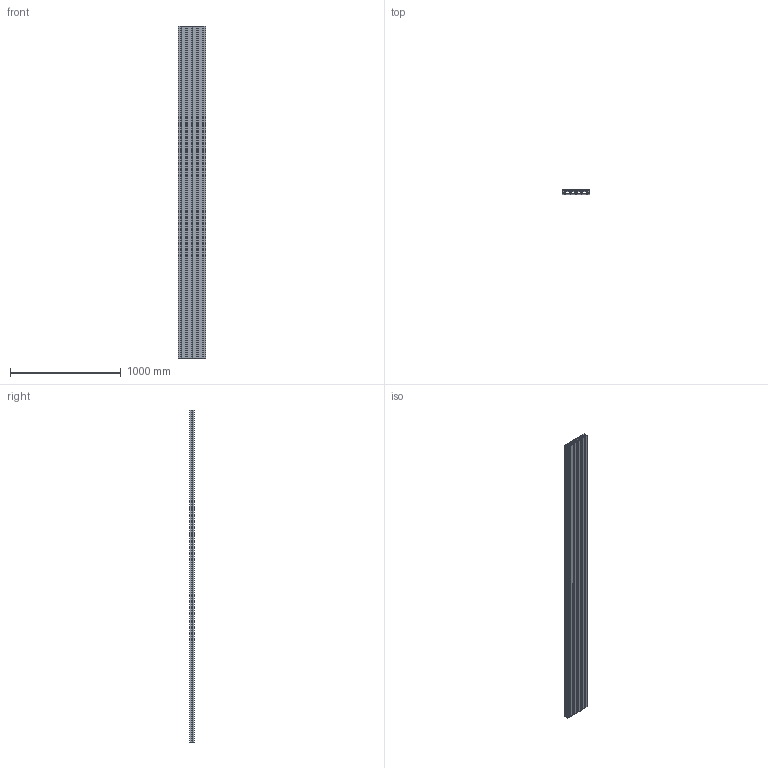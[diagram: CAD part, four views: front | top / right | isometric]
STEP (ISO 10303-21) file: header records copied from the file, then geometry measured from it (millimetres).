
FILE_DESCRIPTION (( 'STEP AP203' ), '1' );
FILE_NAME ('Rechteckprofil RE 40x250 Wechselnut - ArtNr 201030 3000.STEP', '2013-02-07T09:12:40', ( 'test' ), ( 'Microsoft' ), 'SwSTEP 2.0', 'SolidWorks 2012', '' );
FILE_SCHEMA (( 'CONFIG_CONTROL_DESIGN' ));
Length unit declared in the file: millimetre
Products named in the file (1): Rechteckprofil RE 40x250 Wechselnut - ArtNr 201030 3000
Bounding box: 250 x 40 x 3000 mm (x, y, z)
Volume: 8437063.4 mm3; surface area: 6423689.3 mm2
Topology: 1 solids, 1 shells, 394 faces, 1176 edges, 784 vertices
Faces by surface type: plane 244, cylinder 150
Entity records: 13381 total; most frequent: CARTESIAN_POINT 2355, ORIENTED_EDGE 2352, DIRECTION 2266, EDGE_CURVE 1176, VECTOR 876, LINE 876, VERTEX_POINT 784, AXIS2_PLACEMENT_3D 695
